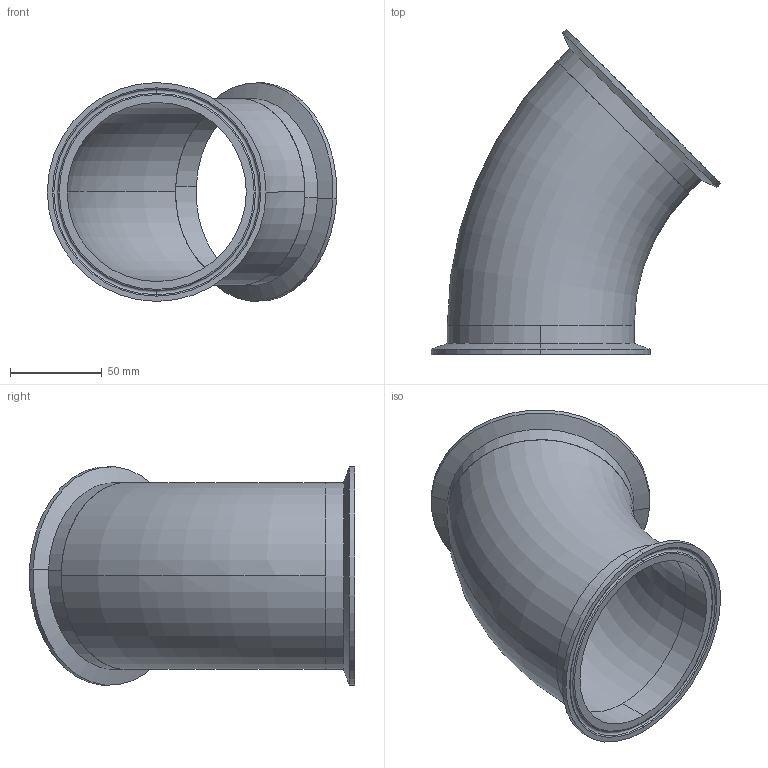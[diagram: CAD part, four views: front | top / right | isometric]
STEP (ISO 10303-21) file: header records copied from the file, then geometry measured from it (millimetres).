
FILE_DESCRIPTION (( 'STEP AP203' ), '1' );
FILE_NAME ('EG2K4.0.STEP', '2018-05-11T13:21:43', ( 'vneprd' ), ( 'Microsoft' ), 'SwSTEP 2.0', 'SolidWorks 2014', '' );
FILE_SCHEMA (( 'CONFIG_CONTROL_DESIGN' ));
Length unit declared in the file: inch
Products named in the file (3): EG2K4.0; E2WK4.0; EG2CS4.0
Assembly tree (3 placements, depth 2):
  EG2K4.0
    E2WK4.0
    EG2CS4.0  x2
Bounding box: 157.28 x 176.82 x 118.92 mm (x, y, z)
Volume: 124444.6 mm3; surface area: 109976 mm2
Topology: 3 solids, 3 shells, 40 faces, 80 edges, 48 vertices
Faces by surface type: torus 16, cylinder 12, plane 8, cone 4
Entity records: 965 total; most frequent: DIRECTION 142, CARTESIAN_POINT 103, ORIENTED_EDGE 92, AXIS2_PLACEMENT_3D 67, EDGE_CURVE 46, CIRCLE 38, VERTEX_POINT 28, EDGE_LOOP 28
